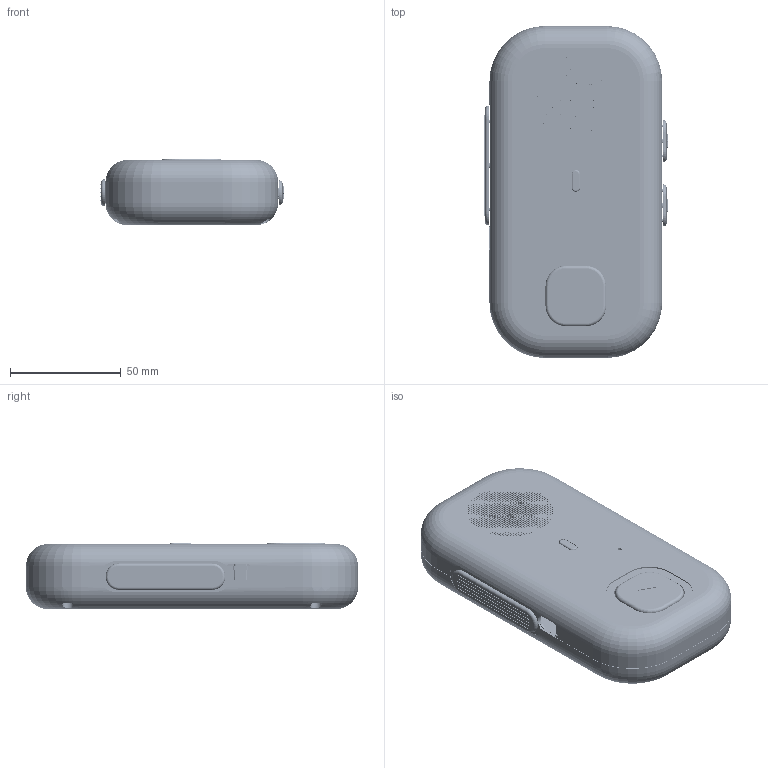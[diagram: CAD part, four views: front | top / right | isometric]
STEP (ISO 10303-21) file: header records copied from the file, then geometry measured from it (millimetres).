
FILE_DESCRIPTION(/* description */ (''),/* implementation_level */ '2;1');
FILE_NAME(/* name */ 'Walkie_Talkie_Enclosure_Fusion_v11_4_Bauhaus_LA.step',/* time_stamp */ '2026-09-08T11:10:28-07:00',/* author */ (''),/* organization */ (''),/* preprocessor_version */ 'ST-DEVELOPER v20.1',/* originating_system */ 'Autodesk Translation Framework v15.8.0.0',/* authorisation */ '');
FILE_SCHEMA (('AUTOMOTIVE_DESIGN { 1 0 10303 214 3 1 1 }'));
Length unit declared in the file: millimetre
Products named in the file (9): 2026-09-08-11-09-09-888; 2026-09-08-11-09-10-386; 2026-09-08-11-09-34-228; 2026-09-08-11-09-51-101; 2026-09-08-11-09-52-372; 2026-09-08-11-09-52-919; 2026-09-08-11-09-54-602; 2026-09-08-11-09-57-592; 2026-09-08-11-09-59-896
Assembly tree (8 placements, depth 2):
  2026-09-08-11-09-09-888
    2026-09-08-11-09-10-386
    2026-09-08-11-09-34-228
    2026-09-08-11-09-51-101
    2026-09-08-11-09-52-372
    2026-09-08-11-09-52-919
    2026-09-08-11-09-54-602
    2026-09-08-11-09-57-592
    2026-09-08-11-09-59-896
Bounding box: 82.72 x 150 x 30.05 mm (x, y, z)
Volume: 68056.7 mm3; surface area: 80897.8 mm2
Topology: 8 solids, 10 shells, 3246 faces, 9328 edges, 6184 vertices
Faces by surface type: bspline 1480, plane 1043, cylinder 687, torus 36
Full cylindrical faces by diameter (mm): 0.884 x1, 1.7 x4, 1.8 x1, 2.1 x4, 2.6 x2, 2.9 x8, 3 x4, 4.2 x8, 5 x1, 5.3 x1, 5.4 x1, 8 x1
Entity records: 132088 total; most frequent: CARTESIAN_POINT 45610, ORIENTED_EDGE 18656, DIRECTION 15766, EDGE_CURVE 9328, VERTEX_POINT 6184, EDGE_LOOP 5668, AXIS2_PLACEMENT_3D 5534, LINE 4698
